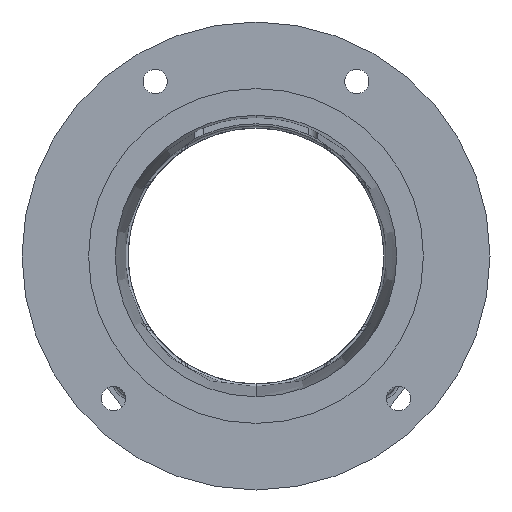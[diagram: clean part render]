
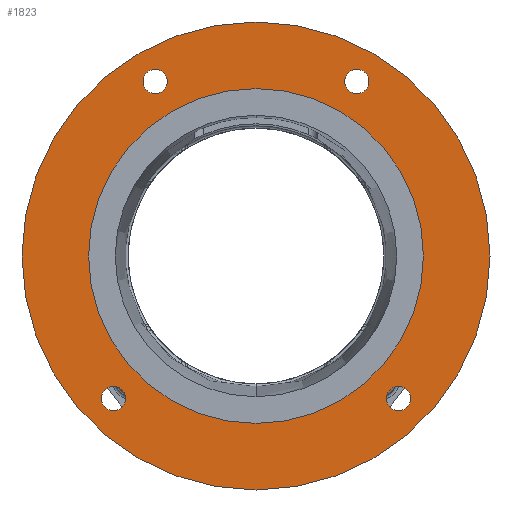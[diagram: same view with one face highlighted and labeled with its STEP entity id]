
A CAD part, front view. The second image highlights one B-rep face of the part: STEP entity #1823.
In plain terms, the highlighted planar face has unit normal (0, -1, 0).
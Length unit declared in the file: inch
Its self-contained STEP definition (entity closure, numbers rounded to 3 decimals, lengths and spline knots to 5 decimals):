
#205 = VERTEX_POINT ( 'NONE', #10289 ) ;
#561 = CARTESIAN_POINT ( 'NONE',  ( 0., 0., 4.5 ) ) ;
#638 = EDGE_LOOP ( 'NONE', ( #6042, #2213 ) ) ;
#795 = DIRECTION ( 'NONE',  ( 0., 0., -1. ) ) ;
#852 = DIRECTION ( 'NONE',  ( 0., 0., -1. ) ) ;
#904 = CIRCLE ( 'NONE', #1711, 0.23438 ) ;
#956 = AXIS2_PLACEMENT_3D ( 'NONE', #5374, #5348, #5345 ) ;
#1179 = FACE_BOUND ( 'NONE', #2348, .T. ) ;
#1245 = CIRCLE ( 'NONE', #4795, 0.23438 ) ;
#1473 = CARTESIAN_POINT ( 'NONE',  ( -2.74004, 0., -2.97441 ) ) ;
#1711 = AXIS2_PLACEMENT_3D ( 'NONE', #5412, #5311, #5012 ) ;
#1811 = EDGE_LOOP ( 'NONE', ( #1946, #9587 ) ) ;
#1823 = ADVANCED_FACE ( 'NONE', ( #7781, #3395, #5591, #1179, #9729, #7509 ), #6611, .F. ) ;
#1824 = EDGE_CURVE ( 'NONE', #8356, #2760, #904, .T. ) ;
#1946 = ORIENTED_EDGE ( 'NONE', *, *, #7046, .F. ) ;
#2088 = ORIENTED_EDGE ( 'NONE', *, *, #9090, .F. ) ;
#2108 = VERTEX_POINT ( 'NONE', #10211 ) ;
#2172 = CIRCLE ( 'NONE', #3636, 0.23438 ) ;
#2213 = ORIENTED_EDGE ( 'NONE', *, *, #6591, .F. ) ;
#2252 = CARTESIAN_POINT ( 'NONE',  ( 1.9375, 0., 3.35585 ) ) ;
#2279 = AXIS2_PLACEMENT_3D ( 'NONE', #5749, #5229, #4676 ) ;
#2286 = VERTEX_POINT ( 'NONE', #5822 ) ;
#2348 = EDGE_LOOP ( 'NONE', ( #4084, #8376 ) ) ;
#2352 = CIRCLE ( 'NONE', #9663, 0.23438 ) ;
#2538 = CIRCLE ( 'NONE', #3851, 4.5 ) ;
#2760 = VERTEX_POINT ( 'NONE', #3866 ) ;
#2761 = ORIENTED_EDGE ( 'NONE', *, *, #7933, .F. ) ;
#3027 = DIRECTION ( 'NONE',  ( 0., -1., 0. ) ) ;
#3095 = DIRECTION ( 'NONE',  ( 0., 0., -1. ) ) ;
#3230 = AXIS2_PLACEMENT_3D ( 'NONE', #4218, #9992, #5037 ) ;
#3395 = FACE_BOUND ( 'NONE', #638, .T. ) ;
#3465 = CARTESIAN_POINT ( 'NONE',  ( -1.9375, 0., 3.35585 ) ) ;
#3511 = AXIS2_PLACEMENT_3D ( 'NONE', #3465, #9243, #4292 ) ;
#3593 = AXIS2_PLACEMENT_3D ( 'NONE', #7967, #3027, #8798 ) ;
#3636 = AXIS2_PLACEMENT_3D ( 'NONE', #8482, #8469, #8467 ) ;
#3655 = DIRECTION ( 'NONE',  ( 0., -1., 0. ) ) ;
#3670 = VERTEX_POINT ( 'NONE', #9768 ) ;
#3672 = CIRCLE ( 'NONE', #7646, 0.23438 ) ;
#3824 = DIRECTION ( 'NONE',  ( 0., 0., -1. ) ) ;
#3828 = EDGE_CURVE ( 'NONE', #8386, #2108, #2172, .T. ) ;
#3851 = AXIS2_PLACEMENT_3D ( 'NONE', #5834, #5825, #5811 ) ;
#3866 = CARTESIAN_POINT ( 'NONE',  ( -2.74004, 0., -2.50566 ) ) ;
#3873 = CARTESIAN_POINT ( 'NONE',  ( 2.74004, 0., -2.74004 ) ) ;
#3895 = CARTESIAN_POINT ( 'NONE',  ( 0., 0., -4.5 ) ) ;
#4084 = ORIENTED_EDGE ( 'NONE', *, *, #1824, .F. ) ;
#4218 = CARTESIAN_POINT ( 'NONE',  ( -1.9375, 0., 3.35585 ) ) ;
#4222 = VERTEX_POINT ( 'NONE', #6064 ) ;
#4292 = DIRECTION ( 'NONE',  ( 0., 0., -1. ) ) ;
#4344 = EDGE_CURVE ( 'NONE', #6822, #8261, #10044, .T. ) ;
#4496 = CARTESIAN_POINT ( 'NONE',  ( -1.9375, 0., 3.12147 ) ) ;
#4665 = CIRCLE ( 'NONE', #3511, 0.23438 ) ;
#4676 = DIRECTION ( 'NONE',  ( 0., 0., 1. ) ) ;
#4680 = EDGE_LOOP ( 'NONE', ( #7175, #5035 ) ) ;
#4739 = CARTESIAN_POINT ( 'NONE',  ( 1.9375, 0., 3.59022 ) ) ;
#4795 = AXIS2_PLACEMENT_3D ( 'NONE', #3873, #3655, #3824 ) ;
#5012 = DIRECTION ( 'NONE',  ( 0., 0., -1. ) ) ;
#5035 = ORIENTED_EDGE ( 'NONE', *, *, #4344, .T. ) ;
#5037 = DIRECTION ( 'NONE',  ( 0., 0., -1. ) ) ;
#5144 = EDGE_CURVE ( 'NONE', #2108, #8386, #1245, .T. ) ;
#5229 = DIRECTION ( 'NONE',  ( 0., 1., 0. ) ) ;
#5243 = CIRCLE ( 'NONE', #10693, 0.23438 ) ;
#5311 = DIRECTION ( 'NONE',  ( 0., -1., 0. ) ) ;
#5345 = DIRECTION ( 'NONE',  ( 0., 0., -1. ) ) ;
#5348 = DIRECTION ( 'NONE',  ( 0., -1., 0. ) ) ;
#5374 = CARTESIAN_POINT ( 'NONE',  ( 0., 0., 0. ) ) ;
#5394 = CIRCLE ( 'NONE', #3230, 0.23438 ) ;
#5412 = CARTESIAN_POINT ( 'NONE',  ( -2.74004, 0., -2.74004 ) ) ;
#5455 = CIRCLE ( 'NONE', #8342, 3.2195 ) ;
#5591 = FACE_BOUND ( 'NONE', #8303, .T. ) ;
#5622 = EDGE_CURVE ( 'NONE', #2760, #8356, #5243, .T. ) ;
#5717 = EDGE_CURVE ( 'NONE', #8261, #6822, #2538, .T. ) ;
#5749 = CARTESIAN_POINT ( 'NONE',  ( -4.5, 0., 0. ) ) ;
#5767 = DIRECTION ( 'NONE',  ( 0., -1., 0. ) ) ;
#5811 = DIRECTION ( 'NONE',  ( 0., 0., -1. ) ) ;
#5822 = CARTESIAN_POINT ( 'NONE',  ( -1.9375, 0., 3.59022 ) ) ;
#5825 = DIRECTION ( 'NONE',  ( 0., -1., 0. ) ) ;
#5828 = DIRECTION ( 'NONE',  ( 0., -1., 0. ) ) ;
#5834 = CARTESIAN_POINT ( 'NONE',  ( 0., 0., 0. ) ) ;
#5871 = VERTEX_POINT ( 'NONE', #4739 ) ;
#6042 = ORIENTED_EDGE ( 'NONE', *, *, #6812, .F. ) ;
#6064 = CARTESIAN_POINT ( 'NONE',  ( 0., 0., 3.2195 ) ) ;
#6591 = EDGE_CURVE ( 'NONE', #5871, #3670, #3672, .T. ) ;
#6611 = PLANE ( 'NONE',  #2279 ) ;
#6812 = EDGE_CURVE ( 'NONE', #3670, #5871, #2352, .T. ) ;
#6819 = DIRECTION ( 'NONE',  ( 0., 0., -1. ) ) ;
#6822 = VERTEX_POINT ( 'NONE', #561 ) ;
#6832 = DIRECTION ( 'NONE',  ( 0., -1., 0. ) ) ;
#6878 = CARTESIAN_POINT ( 'NONE',  ( -2.74004, 0., -2.74004 ) ) ;
#7046 = EDGE_CURVE ( 'NONE', #205, #4222, #5455, .T. ) ;
#7175 = ORIENTED_EDGE ( 'NONE', *, *, #5717, .T. ) ;
#7259 = EDGE_LOOP ( 'NONE', ( #2761, #2088 ) ) ;
#7275 = CARTESIAN_POINT ( 'NONE',  ( 2.74004, 0., -2.50566 ) ) ;
#7509 = FACE_OUTER_BOUND ( 'NONE', #4680, .T. ) ;
#7646 = AXIS2_PLACEMENT_3D ( 'NONE', #10725, #5767, #795 ) ;
#7781 = FACE_BOUND ( 'NONE', #7259, .T. ) ;
#7933 = EDGE_CURVE ( 'NONE', #8741, #2286, #4665, .T. ) ;
#7967 = CARTESIAN_POINT ( 'NONE',  ( 0., 0., 0. ) ) ;
#8035 = DIRECTION ( 'NONE',  ( 0., -1., 0. ) ) ;
#8225 = CIRCLE ( 'NONE', #3593, 3.2195 ) ;
#8261 = VERTEX_POINT ( 'NONE', #3895 ) ;
#8303 = EDGE_LOOP ( 'NONE', ( #8939, #9543 ) ) ;
#8342 = AXIS2_PLACEMENT_3D ( 'NONE', #10787, #5828, #852 ) ;
#8356 = VERTEX_POINT ( 'NONE', #1473 ) ;
#8376 = ORIENTED_EDGE ( 'NONE', *, *, #5622, .F. ) ;
#8386 = VERTEX_POINT ( 'NONE', #7275 ) ;
#8467 = DIRECTION ( 'NONE',  ( 0., 0., -1. ) ) ;
#8469 = DIRECTION ( 'NONE',  ( 0., -1., 0. ) ) ;
#8482 = CARTESIAN_POINT ( 'NONE',  ( 2.74004, 0., -2.74004 ) ) ;
#8741 = VERTEX_POINT ( 'NONE', #4496 ) ;
#8798 = DIRECTION ( 'NONE',  ( 0., 0., -1. ) ) ;
#8939 = ORIENTED_EDGE ( 'NONE', *, *, #5144, .F. ) ;
#9090 = EDGE_CURVE ( 'NONE', #2286, #8741, #5394, .T. ) ;
#9243 = DIRECTION ( 'NONE',  ( 0., -1., 0. ) ) ;
#9274 = EDGE_CURVE ( 'NONE', #4222, #205, #8225, .T. ) ;
#9543 = ORIENTED_EDGE ( 'NONE', *, *, #3828, .F. ) ;
#9587 = ORIENTED_EDGE ( 'NONE', *, *, #9274, .F. ) ;
#9663 = AXIS2_PLACEMENT_3D ( 'NONE', #2252, #8035, #3095 ) ;
#9729 = FACE_BOUND ( 'NONE', #1811, .T. ) ;
#9768 = CARTESIAN_POINT ( 'NONE',  ( 1.9375, 0., 3.12147 ) ) ;
#9992 = DIRECTION ( 'NONE',  ( 0., -1., 0. ) ) ;
#10044 = CIRCLE ( 'NONE', #956, 4.5 ) ;
#10211 = CARTESIAN_POINT ( 'NONE',  ( 2.74004, 0., -2.97441 ) ) ;
#10289 = CARTESIAN_POINT ( 'NONE',  ( 0., 0., -3.2195 ) ) ;
#10693 = AXIS2_PLACEMENT_3D ( 'NONE', #6878, #6832, #6819 ) ;
#10725 = CARTESIAN_POINT ( 'NONE',  ( 1.9375, 0., 3.35585 ) ) ;
#10787 = CARTESIAN_POINT ( 'NONE',  ( 0., 0., 0. ) ) ;
